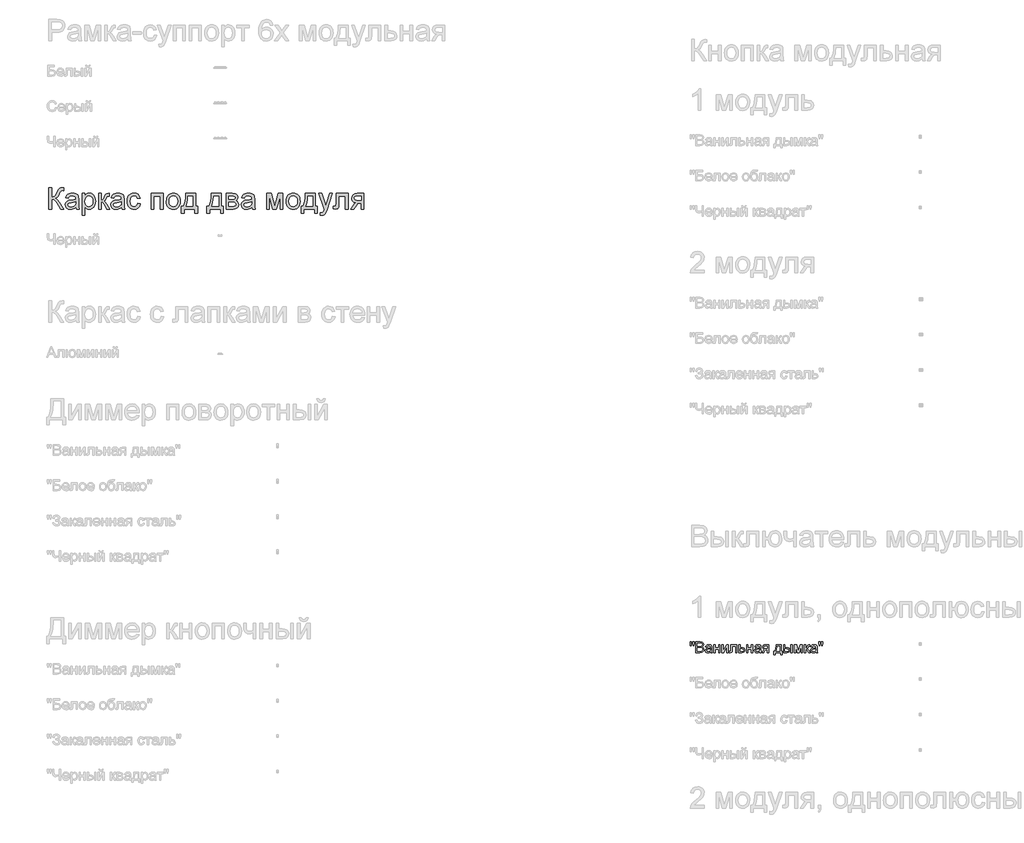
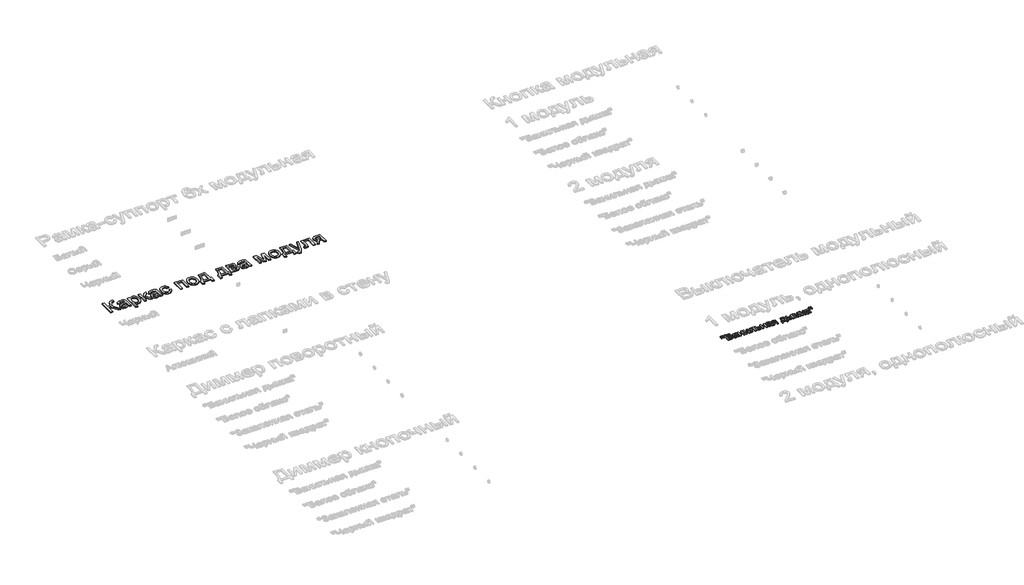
# One storey, part 37 of 168: 2 proxies.
"""IFC4 building model written with IfcOpenShell, lengths in millimetres."""

from ifc_helpers import new_model, si_unit, origin, origin_with_axes, place, context, project, spatial, polyline, outline, extrude, element, save

model = new_model("IFC4")

# Units and contexts
model_context = context("Model", 3, world=origin())
ifc_project = project(units=[si_unit("LENGTHUNIT", "METRE", prefix="MILLI")], contexts=[model_context])

# Site, building, storey
site = spatial("IfcSite", under=ifc_project)
building = spatial("IfcBuilding", under=site)
storey = spatial("IfcBuildingStorey", under=building, Name="Этаж 01", Elevation=0.0)

# Proxies
placement = place(None, origin())
element("IfcBuildingElementProxy", 1, Name="300 мм Arial 2", ObjectType="300 мм Arial 2", at=placement, inside=storey, context=model_context, shape_type="SweptSolid", body=[
    extrude(outline(polyline([(32899.0945017, -40581.2692868), (32936.765618, -40581.2692868), (32936.765618, -40713.1181939), (32962.2690373, -40710.6257934), (32978.8881064, -40703.1485918), (32992.3249963, -40685.5546354), (33008.2818778, -40652.7119703), (33029.0672106, -40610.5894818), (33039.0919949, -40599.1759429), (33052.6116582, -40589.7305727), (33068.6605103, -40583.3846083), (33086.2728608, -40581.2692868), (33110.9945309, -40581.7107452), (33110.9945309, -40619.3818615), (33102.6803978, -40619.1611323), (33094.3662647, -40618.9404031), (33077.1125991, -40621.2028774), (33064.9357051, -40627.9903002), (33054.4510682, -40642.2457275), (33042.5684798, -40666.7650625), (33027.9911557, -40697.2992681), (33015.8970351, -40714.0011107), (32989.8877781, -40729.5993073), (33004.4788977, -40735.807316), (33018.9688498, -40746.6322437), (33047.6452513, -40782.1328562), (33110.9945309, -40882.6382173), (33067.2901499, -40882.6382173), (33013.7265314, -40797.7310528), (32993.0423662, -40770.4985881), (32976.0186268, -40753.4012724), (32958.6086114, -40744.3789664), (32936.765618, -40741.3715311), (32936.765618, -40882.6382173), (32899.0945017, -40882.6382173), (32899.0945017, -40581.2692868)])), origin_with_axes(), (0.0, 0.0, 1.0), 20.0),
    extrude(outline(polyline([(33280.5145543, -40854.3848801), (33262.5159276, -40869.8175297), (33243.9838721, -40879.9158905), (33224.4953234, -40885.4893027), (33203.6272173, -40887.3471068), (33172.1457155, -40882.8773406), (33148.9231646, -40869.4680419), (33134.6033579, -40849.1057734), (33129.830089, -40823.7770981), (33131.6327108, -40808.1605074), (33137.0405761, -40793.9786564), (33145.3823004, -40781.8385506), (33155.9864989, -40772.3471951), (33182.3636379, -40759.9863601), (33214.9579827, -40754.3209774), (33253.4752276, -40748.361289), (33280.2938251, -40741.3715311), (33280.5145543, -40732.9838216), (33277.9209862, -40716.1716145), (33270.140282, -40705.1719428), (33252.7394636, -40697.0049625), (33228.4960401, -40694.2826358), (33206.0552384, -40696.0944546), (33190.3834654, -40701.5299111), (33179.6964935, -40711.5822866), (33172.2100949, -40727.2448625), (33134.5389786, -40722.535973), (33141.078081, -40701.9345812), (33150.836151, -40685.7477735), (33164.7236963, -40673.3685443), (33183.6512249, -40664.1898885), (33206.8001995, -40658.5061117), (33233.3520825, -40656.6115194), (33258.8187136, -40658.2853825), (33279.0062381, -40663.3069718), (33294.2273556, -40670.8577497), (33304.7947659, -40680.1191789), (33311.8029179, -40691.569506), (33316.3462606, -40705.6869776), (33318.1856706, -40738.6492044), (33318.1856706, -40785.5173706), (33320.0986569, -40850.9635775), (33327.6034496, -40882.6382173), (33289.9323333, -40882.6382173), (33280.5145543, -40854.3848801)]), holes=[polyline([(33280.5145543, -40779.0426474), (33219.7404487, -40790.5941421), (33187.3300449, -40796.7009832), (33172.6515533, -40806.6337971), (33167.5012053, -40821.1283477), (33170.3063056, -40832.3303544), (33178.7216062, -40841.5090102), (33192.5631663, -40847.6342454), (33211.6470448, -40849.6759905), (33231.8805545, -40847.4227133), (33249.7596195, -40840.6628816), (33264.2541701, -40830.7024766), (33274.3341367, -40818.8474793), (33278.803903, -40806.6337971), (33280.2938251, -40789.7112253), (33280.5145543, -40779.0426474)])]), origin_with_axes(), (0.0, 0.0, 1.0), 20.0),
    extrude(outline(polyline([(33369.9834555, -40967.398229), (33369.9834555, -40661.320409), (33407.6545718, -40661.320409), (33407.6545718, -40698.2557613), (33419.9418304, -40680.0364055), (33433.700617, -40667.0225799), (33449.740272, -40659.2142846), (33468.8701358, -40656.6115194), (33494.345964, -40660.2535512), (33516.6212188, -40671.1796465), (33534.7578011, -40688.7276176), (33547.817612, -40712.2352771), (33555.7086807, -40739.9919737), (33558.339037, -40770.287056), (33555.3683899, -40802.5043217), (33546.4564486, -40831.318679), (33531.8883216, -40855.2677968), (33511.9491174, -40872.8893444), (33488.7265665, -40883.7326662), (33464.308399, -40887.3471068), (33446.9903541, -40884.9282827), (33431.5301133, -40877.6718103), (33418.2955585, -40866.7181239), (33407.6545718, -40853.2076577), (33407.6545718, -40967.398229), (33369.9834555, -40967.398229)]), holes=[polyline([(33407.6545718, -40773.7451467), (33411.7288649, -40807.5167139), (33423.9517442, -40831.134738), (33441.987159, -40845.0406774), (33463.4990587, -40849.6759905), (33485.3604462, -40844.8751305), (33503.8557135, -40830.4725504), (33516.4648689, -40805.9900036), (33520.6679207, -40770.9492435), (33516.5660365, -40737.3616174), (33504.2603837, -40713.4124995), (33486.2525601, -40699.0651017), (33465.044163, -40694.2826358), (33443.7529926, -40699.3686043), (33425.0553902, -40714.6265101), (33412.0047764, -40739.5781064), (33407.6545718, -40773.7451467)])]), origin_with_axes(), (0.0, 0.0, 1.0), 20.0),
    extrude(outline(polyline([(33600.7190429, -40661.320409), (33638.3901592, -40661.320409), (33638.3901592, -40755.4981997), (33653.7124443, -40753.8059426), (33663.626864, -40748.729171), (33672.4008496, -40735.4854192), (33684.3018322, -40709.2922212), (33701.4819213, -40675.2631366), (33716.6386595, -40664.1898885), (33744.193021, -40661.320409), (33751.4035081, -40661.320409), (33751.4035081, -40699.2122545), (33741.249965, -40698.9915253), (33722.8558653, -40702.9646508), (33709.906419, -40727.7598973), (33694.7128926, -40754.5784948), (33673.4125251, -40767.711882), (33685.3502958, -40773.0139812), (33697.177702, -40782.3719795), (33720.5014205, -40813.255673), (33760.8212872, -40882.6382173), (33717.9998229, -40882.6382173), (33678.4892966, -40814.727201), (33658.6236689, -40785.9956171), (33649.3346485, -40780.7808899), (33638.3901592, -40779.0426474), (33638.3901592, -40882.6382173), (33600.7190429, -40882.6382173), (33600.7190429, -40661.320409)])), origin_with_axes(), (0.0, 0.0, 1.0), 20.0),
    extrude(outline(polyline([(33925.632421, -40854.3848801), (33907.6337944, -40869.8175297), (33889.1017389, -40879.9158905), (33869.6131902, -40885.4893027), (33848.745084, -40887.3471068), (33817.2635823, -40882.8773406), (33794.0410313, -40869.4680419), (33779.7212247, -40849.1057734), (33774.9479558, -40823.7770981), (33776.7505776, -40808.1605074), (33782.1584429, -40793.9786564), (33790.5001671, -40781.8385506), (33801.1043656, -40772.3471951), (33827.4815047, -40759.9863601), (33860.0758495, -40754.3209774), (33898.5930944, -40748.361289), (33925.4116918, -40741.3715311), (33925.632421, -40732.9838216), (33923.0388529, -40716.1716145), (33915.2581487, -40705.1719428), (33897.8573304, -40697.0049625), (33873.6139069, -40694.2826358), (33851.1731052, -40696.0944546), (33835.5013322, -40701.5299111), (33824.8143602, -40711.5822866), (33817.3279616, -40727.2448625), (33779.6568453, -40722.535973), (33786.1959478, -40701.9345812), (33795.9540177, -40685.7477735), (33809.841563, -40673.3685443), (33828.7690917, -40664.1898885), (33851.9180662, -40658.5061117), (33878.4699492, -40656.6115194), (33903.9365803, -40658.2853825), (33924.1241048, -40663.3069718), (33939.3452224, -40670.8577497), (33949.9126327, -40680.1191789), (33956.9207847, -40691.569506), (33961.4641273, -40705.6869776), (33963.3035373, -40738.6492044), (33963.3035373, -40785.5173706), (33965.2165237, -40850.9635775), (33972.7213164, -40882.6382173), (33935.0502001, -40882.6382173), (33925.632421, -40854.3848801)]), holes=[polyline([(33925.632421, -40779.0426474), (33864.8583154, -40790.5941421), (33832.4479116, -40796.7009832), (33817.76942, -40806.6337971), (33812.6190721, -40821.1283477), (33815.4241723, -40832.3303544), (33823.8394729, -40841.5090102), (33837.681033, -40847.6342454), (33856.7649115, -40849.6759905), (33876.9984212, -40847.4227133), (33894.8774862, -40840.6628816), (33909.3720368, -40830.7024766), (33919.4520035, -40818.8474793), (33923.9217697, -40806.6337971), (33925.4116918, -40789.7112253), (33925.632421, -40779.0426474)])]), origin_with_axes(), (0.0, 0.0, 1.0), 20.0),
    extrude(outline(polyline([(34156.3680084, -40802.5870951), (34194.0391247, -40807.2959847), (34183.5360937, -40840.8008374), (34163.7992247, -40866.1203157), (34136.6863216, -40882.040409), (34104.0551887, -40887.3471068), (34082.9272658, -40885.4962005), (34063.9836423, -40879.9434817), (34047.2243182, -40870.6889502), (34032.6492934, -40857.7326062), (34020.8517777, -40841.3181714), (34012.4249807, -40821.6893677), (34007.3689025, -40798.8461951), (34005.6835431, -40772.7886535), (34008.5622198, -40739.2654067), (34017.1982496, -40710.2119261), (34031.7295884, -40686.7502519), (34052.2941919, -40670.0024241), (34076.8963004, -40659.9592456), (34103.5401539, -40656.6115194), (34135.3711435, -40661.2100444), (34160.8193805, -40675.0056192), (34179.0755245, -40697.2624799), (34189.3302351, -40727.2448625), (34151.6591188, -40731.9537521), (34144.8257108, -40715.5186239), (34134.1847241, -40703.737203), (34120.3247699, -40696.6462776), (34103.8344595, -40694.2826358), (34079.4898684, -40698.936343), (34060.1668666, -40712.8974647), (34047.5577113, -40736.920159), (34043.3546595, -40771.7585839), (34047.4657408, -40807.0660584), (34059.7989846, -40831.1715262), (34078.7724985, -40845.0498744), (34102.8043899, -40849.6759905), (34122.3113327, -40846.7881169), (34138.3050024, -40838.1244959), (34149.9392705, -40823.4643984), (34156.3680084, -40802.5870951)])), origin_with_axes(), (0.0, 0.0, 1.0), 20.0),
    extrude(outline(polyline([(34344.7235899, -40661.320409), (34514.2436133, -40661.320409), (34514.2436133, -40882.6382173), (34476.572497, -40882.6382173), (34476.572497, -40698.9915253), (34382.3947062, -40698.9915253), (34382.3947062, -40882.6382173), (34344.7235899, -40882.6382173), (34344.7235899, -40661.320409)])), origin_with_axes(), (0.0, 0.0, 1.0), 20.0),
    extrude(outline(polyline([(34561.3325087, -40771.9793131), (34563.3696552, -40743.3167072), (34569.4810949, -40718.6180297), (34579.6668276, -40697.8832808), (34593.9268534, -40681.1124603), (34608.2834483, -40670.3932987), (34624.1299652, -40662.7367547), (34641.4664043, -40658.1428282), (34660.2927654, -40656.6115194), (34681.0757988, -40658.4762213), (34699.867671, -40664.0703269), (34716.6683819, -40673.3938362), (34731.4779314, -40686.4467493), (34743.5651542, -40702.7876076), (34752.1988848, -40721.9749529), (34757.3791232, -40744.0087852), (34759.1058693, -40768.8891044), (34756.0524487, -40806.9464968), (34746.892187, -40835.9172039), (34731.8917987, -40857.6130446), (34711.3179981, -40873.8458376), (34686.8814366, -40883.9717895), (34660.2927654, -40887.3471068), (34639.2062293, -40885.4893027), (34620.2396131, -40879.9158905), (34603.392917, -40870.6268701), (34588.6661409, -40857.6222416), (34576.7076768, -40841.1227341), (34568.1659167, -40821.3490769), (34563.0408607, -40798.3012699), (34561.3325087, -40771.9793131)]), holes=[polyline([(34599.003625, -40771.9057367), (34603.3630266, -40805.9992006), (34616.4412315, -40830.2886094), (34636.1229183, -40844.8291452), (34660.2927654, -40849.6759905), (34684.3522479, -40844.8015541), (34703.9971464, -40830.1782448), (34717.0753513, -40805.5669393), (34721.434753, -40770.7285143), (34717.0477602, -40737.6283318), (34703.8867818, -40713.6700169), (34684.2142921, -40699.129481), (34660.2927654, -40694.2826358), (34636.1229183, -40699.1110869), (34616.4412315, -40713.5964405), (34603.3630266, -40737.8306669), (34599.003625, -40771.9057367)])]), origin_with_axes(), (0.0, 0.0, 1.0), 20.0),
    extrude(outline(polyline([(34834.4481019, -40661.320409), (34975.714788, -40661.320409), (34975.714788, -40844.967101), (35003.9681253, -40844.967101), (35003.9681253, -40943.8537813), (34966.297009, -40943.8537813), (34966.297009, -40882.6382173), (34810.9036542, -40882.6382173), (34810.9036542, -40943.8537813), (34773.2325379, -40943.8537813), (34773.2325379, -40844.967101), (34796.7769856, -40844.967101), (34813.8926954, -40814.0374222), (34825.8764514, -40773.1197473), (34832.7282536, -40722.2140762), (34834.4481019, -40661.320409)]), holes=[polyline([(34867.4103287, -40698.9915253), (34864.3201199, -40745.1147304), (34858.5811608, -40784.8183948), (34850.1934513, -40818.1025183), (34839.1569914, -40844.967101), (34938.0436717, -40844.967101), (34938.0436717, -40698.9915253), (34867.4103287, -40698.9915253)])]), origin_with_axes(), (0.0, 0.0, 1.0), 20.0),
    extrude(outline(polyline([(35197.0325963, -40661.320409), (35338.2992825, -40661.320409), (35338.2992825, -40844.967101), (35366.5526197, -40844.967101), (35366.5526197, -40943.8537813), (35328.8815034, -40943.8537813), (35328.8815034, -40882.6382173), (35173.4881486, -40882.6382173), (35173.4881486, -40943.8537813), (35135.8170323, -40943.8537813), (35135.8170323, -40844.967101), (35159.36148, -40844.967101), (35176.4771898, -40814.0374222), (35188.4609458, -40773.1197473), (35195.312748, -40722.2140762), (35197.0325963, -40661.320409)]), holes=[polyline([(35229.9948231, -40698.9915253), (35226.9046143, -40745.1147304), (35221.1656552, -40784.8183948), (35212.7779457, -40818.1025183), (35201.7414859, -40844.967101), (35300.6281662, -40844.967101), (35300.6281662, -40698.9915253), (35229.9948231, -40698.9915253)])]), origin_with_axes(), (0.0, 0.0, 1.0), 20.0),
    extrude(outline(polyline([(35408.9326256, -40661.320409), (35491.9268037, -40661.320409), (35518.6074454, -40662.5804048), (35537.4338065, -40666.3603923), (35551.2845636, -40673.497303), (35563.0383933, -40684.8280685), (35571.0674179, -40699.5893335), (35573.7437594, -40717.0177431), (35572.1250786, -40731.0616382), (35567.2690363, -40743.1741529), (35559.1572383, -40753.4104694), (35547.7712905, -40761.8257701), (35561.7140181, -40769.6524595), (35573.0815718, -40782.2432208), (35580.6415468, -40798.6047725), (35583.1615385, -40817.7438333), (35576.7787859, -40846.4570231), (35561.6036536, -40866.6721387), (35537.5809593, -40878.6466976), (35504.6555207, -40882.6382173), (35408.9326256, -40882.6382173), (35408.9326256, -40661.320409)]), holes=[polyline([(35446.6037419, -40746.0804207), (35483.8333998, -40746.0804207), (35514.5515464, -40744.1674343), (35529.4875554, -40736.5154888), (35534.4263712, -40730.1879185), (35536.0726431, -40722.6831258), (35533.1847694, -40711.4443308), (35524.5211484, -40704.2154496), (35508.8677695, -40700.2975064), (35485.0106222, -40698.9915253), (35446.6037419, -40698.9915253), (35446.6037419, -40746.0804207)]), polyline([(35446.6037419, -40844.967101), (35492.8097205, -40844.967101), (35517.991243, -40843.2656467), (35533.7917747, -40838.1612841), (35542.2714547, -40828.8814607), (35545.4904222, -40814.6536246), (35543.8809384, -40805.2266484), (35539.0524872, -40796.5170422), (35531.639665, -40789.7020282), (35522.2770683, -40785.9588289), (35489.1309005, -40783.751537), (35446.6037419, -40783.751537), (35446.6037419, -40844.967101)])]), origin_with_axes(), (0.0, 0.0, 1.0), 20.0),
    extrude(outline(polyline([(35771.51712, -40854.3848801), (35753.5184934, -40869.8175297), (35734.9864379, -40879.9158905), (35715.4978892, -40885.4893027), (35694.629783, -40887.3471068), (35663.1482813, -40882.8773406), (35639.9257303, -40869.4680419), (35625.6059237, -40849.1057734), (35620.8326548, -40823.7770981), (35622.6352766, -40808.1605074), (35628.0431419, -40793.9786564), (35636.3848661, -40781.8385506), (35646.9890646, -40772.3471951), (35673.3662037, -40759.9863601), (35705.9605485, -40754.3209774), (35744.4777934, -40748.361289), (35771.2963908, -40741.3715311), (35771.51712, -40732.9838216), (35768.9235519, -40716.1716145), (35761.1428477, -40705.1719428), (35743.7420294, -40697.0049625), (35719.4986059, -40694.2826358), (35697.0578042, -40696.0944546), (35681.3860312, -40701.5299111), (35670.6990592, -40711.5822866), (35663.2126606, -40727.2448625), (35625.5415443, -40722.535973), (35632.0806468, -40701.9345812), (35641.8387167, -40685.7477735), (35655.726262, -40673.3685443), (35674.6537907, -40664.1898885), (35697.8027652, -40658.5061117), (35724.3546482, -40656.6115194), (35749.8212793, -40658.2853825), (35770.0088038, -40663.3069718), (35785.2299214, -40670.8577497), (35795.7973317, -40680.1191789), (35802.8054837, -40691.569506), (35807.3488263, -40705.6869776), (35809.1882363, -40738.6492044), (35809.1882363, -40785.5173706), (35811.1012227, -40850.9635775), (35818.6060154, -40882.6382173), (35780.9348991, -40882.6382173), (35771.51712, -40854.3848801)]), holes=[polyline([(35771.51712, -40779.0426474), (35710.7430144, -40790.5941421), (35678.3326106, -40796.7009832), (35663.654119, -40806.6337971), (35658.5037711, -40821.1283477), (35661.3088713, -40832.3303544), (35669.7241719, -40841.5090102), (35683.565732, -40847.6342454), (35702.6496105, -40849.6759905), (35722.8831202, -40847.4227133), (35740.7621852, -40840.6628816), (35755.2567358, -40830.7024766), (35765.3367025, -40818.8474793), (35769.8064687, -40806.6337971), (35771.2963908, -40789.7112253), (35771.51712, -40779.0426474)])]), origin_with_axes(), (0.0, 0.0, 1.0), 20.0),
    extrude(outline(polyline([(35978.7082597, -40661.320409), (36043.5290672, -40661.320409), (36093.4874422, -40838.4923779), (36147.3453663, -40661.320409), (36209.4438471, -40661.320409), (36209.4438471, -40882.6382173), (36171.7727308, -40882.6382173), (36171.7727308, -40704.4361788), (36117.6205011, -40882.6382173), (36068.1771609, -40882.6382173), (36016.379376, -40695.9013165), (36016.379376, -40882.6382173), (35978.7082597, -40882.6382173), (35978.7082597, -40661.320409)])), origin_with_axes(), (0.0, 0.0, 1.0), 20.0),
    extrude(outline(polyline([(36256.5327424, -40771.9793131), (36258.569889, -40743.3167072), (36264.6813286, -40718.6180297), (36274.8670614, -40697.8832808), (36289.1270872, -40681.1124603), (36303.4836821, -40670.3932987), (36319.330199, -40662.7367547), (36336.666638, -40658.1428282), (36355.4929991, -40656.6115194), (36376.2760326, -40658.4762213), (36395.0679048, -40664.0703269), (36411.8686156, -40673.3938362), (36426.6781652, -40686.4467493), (36438.765388, -40702.7876076), (36447.3991186, -40721.9749529), (36452.5793569, -40744.0087852), (36454.306103, -40768.8891044), (36451.2526825, -40806.9464968), (36442.0924208, -40835.9172039), (36427.0920325, -40857.6130446), (36406.5182319, -40873.8458376), (36382.0816703, -40883.9717895), (36355.4929991, -40887.3471068), (36334.406463, -40885.4893027), (36315.4398469, -40879.9158905), (36298.5931508, -40870.6268701), (36283.8663747, -40857.6222416), (36271.9079106, -40841.1227341), (36263.3661505, -40821.3490769), (36258.2410945, -40798.3012699), (36256.5327424, -40771.9793131)]), holes=[polyline([(36294.2038587, -40771.9057367), (36298.5632604, -40805.9992006), (36311.6414653, -40830.2886094), (36331.3231521, -40844.8291452), (36355.4929991, -40849.6759905), (36379.5524816, -40844.8015541), (36399.1973802, -40830.1782448), (36412.2755851, -40805.5669393), (36416.6349867, -40770.7285143), (36412.2479939, -40737.6283318), (36399.0870156, -40713.6700169), (36379.4145259, -40699.129481), (36355.4929991, -40694.2826358), (36331.3231521, -40699.1110869), (36311.6414653, -40713.5964405), (36298.5632604, -40737.8306669), (36294.2038587, -40771.9057367)])]), origin_with_axes(), (0.0, 0.0, 1.0), 20.0),
    extrude(outline(polyline([(36529.6483357, -40661.320409), (36670.9150218, -40661.320409), (36670.9150218, -40844.967101), (36699.168359, -40844.967101), (36699.168359, -40943.8537813), (36661.4972427, -40943.8537813), (36661.4972427, -40882.6382173), (36506.103888, -40882.6382173), (36506.103888, -40943.8537813), (36468.4327717, -40943.8537813), (36468.4327717, -40844.967101), (36491.9772194, -40844.967101), (36509.0929292, -40814.0374222), (36521.0766852, -40773.1197473), (36527.9284873, -40722.2140762), (36529.6483357, -40661.320409)]), holes=[polyline([(36562.6105624, -40698.9915253), (36559.5203537, -40745.1147304), (36553.7813945, -40784.8183948), (36545.3936851, -40818.1025183), (36534.3572252, -40844.967101), (36633.2439055, -40844.967101), (36633.2439055, -40698.9915253), (36562.6105624, -40698.9915253)])]), origin_with_axes(), (0.0, 0.0, 1.0), 20.0),
    extrude(outline(polyline([(36741.5483649, -40967.398229), (36736.8394753, -40931.1250642), (36755.9693391, -40934.4360022), (36773.8484041, -40930.2789357), (36784.8112875, -40918.6906528), (36795.1119834, -40890.9523504), (36798.0550393, -40881.8288769), (36718.0039172, -40661.320409), (36757.7351727, -40661.320409), (36800.1887549, -40784.1929954), (36814.9776111, -40833.3420299), (36829.7664673, -40789.9319545), (36873.397272, -40661.320409), (36912.8342218, -40661.320409), (36835.799732, -40887.935718), (36815.7869515, -40937.0847526), (36805.5414379, -40952.7749197), (36793.934761, -40963.6458326), (36780.4518859, -40969.991797), (36764.5777778, -40972.1071185), (36741.5483649, -40967.398229)])), origin_with_axes(), (0.0, 0.0, 1.0), 20.0),
    extrude(outline(polyline([(36962.8661732, -40661.320409), (37132.3861966, -40661.320409), (37132.3861966, -40882.4174881), (37094.7150803, -40882.4174881), (37094.7150803, -40698.9915253), (37000.5372895, -40698.9915253), (37000.5372895, -40804.5736579), (36997.9989037, -40853.2812341), (36993.2440289, -40864.3084969), (36984.0561761, -40873.8458376), (36970.1134485, -40880.4401224), (36951.0939493, -40882.6382173), (36920.4861673, -40880.7252309), (36920.4861673, -40844.967101), (36937.3351627, -40844.967101), (36954.3680991, -40842.6494444), (36961.173916, -40835.2918045), (36962.8661732, -40802.4399423), (36962.8661732, -40661.320409)])), origin_with_axes(), (0.0, 0.0, 1.0), 20.0),
    extrude(outline(polyline([(37358.4128944, -40661.320409), (37358.4128944, -40882.6382173), (37320.7417781, -40882.6382173), (37320.7417781, -40797.8782056), (37300.2139628, -40797.8782056), (37272.2549311, -40802.6606715), (37261.0897126, -40813.0901261), (37245.9881567, -40834.8135579), (37215.9689859, -40882.6382173), (37172.4117576, -40882.6382173), (37210.2300267, -40822.1584173), (37226.9318693, -40800.4533796), (37242.3093367, -40790.8148713), (37216.5575971, -40782.9238025), (37198.4578029, -40767.9326112), (37187.7524368, -40747.993407), (37184.1839815, -40725.2582997), (37189.0584179, -40699.4697719), (37203.6817272, -40679.0523211), (37227.5388746, -40665.753387), (37260.1148253, -40661.320409), (37358.4128944, -40661.320409)]), holes=[polyline([(37320.7417781, -40698.9915253), (37271.0777087, -40698.9915253), (37245.4271366, -40701.1712261), (37230.8682067, -40707.7103286), (37224.108375, -40717.1740929), (37221.8550978, -40728.1277793), (37225.1752328, -40742.4843742), (37235.1356378, -40752.4447792), (37253.5389346, -40758.2665118), (37282.187745, -40760.2070893), (37320.7417781, -40760.2070893), (37320.7417781, -40698.9915253)])]), origin_with_axes(), (0.0, 0.0, 1.0), 20.0),
])
element("IfcBuildingElementProxy", 2, Name="150", ObjectType="150", at=placement, inside=storey, context=model_context, shape_type="SweptSolid", body=[
    extrude(outline(polyline([(41980.1485789, -47064.0640488), (41975.550054, -47034.9645829), (41975.550054, -47009.9118191), (41994.3856121, -47009.9118191), (41994.3856121, -47034.9645829), (41990.2653338, -47064.0640488), (41980.1485789, -47064.0640488)])), origin_with_axes(), (0.0, 0.0, 1.0), 20.0),
    extrude(outline(polyline([(42017.7093306, -47064.0640488), (42013.2211703, -47034.9645829), (42013.2211703, -47009.9118191), (42032.0567284, -47009.9118191), (42032.0567284, -47034.9645829), (42027.6421445, -47064.0640488), (42017.7093306, -47064.0640488)])), origin_with_axes(), (0.0, 0.0, 1.0), 20.0),
    extrude(outline(polyline([(42057.9556209, -47160.5962843), (42057.9556209, -47009.9118191), (42115.4555767, -47009.9118191), (42143.6169435, -47014.3447971), (42153.0807078, -47019.9687931), (42160.2452096, -47027.974825), (42166.2600803, -47047.2518416), (42161.2017028, -47064.8549951), (42145.9162059, -47078.1907174), (42156.5893823, -47083.7641296), (42164.4758526, -47092.2438096), (42169.3456905, -47103.0687373), (42170.9689698, -47115.6778927), (42166.5359918, -47135.9297965), (42155.5547142, -47150.3507707), (42139.1655713, -47158.0027162), (42115.0141183, -47160.5962843), (42057.9556209, -47160.5962843)]), holes=[polyline([(42076.791179, -47071.1273831), (42111.1881456, -47071.1273831), (42131.2745025, -47069.5087023), (42143.3594261, -47062.5373385), (42147.4245221, -47050.2684739), (42143.6353376, -47037.9812153), (42132.7828187, -47030.7155459), (42108.5761834, -47028.7473772), (42076.791179, -47028.7473772), (42076.791179, -47071.1273831)]), polyline([(42076.791179, -47141.7607261), (42115.4187885, -47141.7607261), (42129.3983043, -47141.0249622), (42141.2257105, -47136.9230779), (42149.061597, -47128.5537625), (42152.1334117, -47115.8618337), (42148.5281681, -47101.2201303), (42136.8479148, -47092.4829329), (42113.5793786, -47089.9629412), (42076.791179, -47089.9629412), (42076.791179, -47141.7607261)])]), origin_with_axes(), (0.0, 0.0, 1.0), 20.0),
    extrude(outline(polyline([(42265.1467606, -47146.4696157), (42246.8814195, -47159.2351209), (42226.7030921, -47162.9507291), (42210.9623412, -47160.7158459), (42199.3510657, -47154.0111966), (42192.1911624, -47143.8300624), (42189.804528, -47131.1657247), (42193.4097715, -47116.2665039), (42202.8827329, -47105.4507732), (42216.0713024, -47099.2703557), (42232.3684748, -47096.4376643), (42265.036396, -47089.9629412), (42265.1467606, -47085.7690865), (42263.8499765, -47077.3629829), (42259.9596244, -47071.8631471), (42251.2592153, -47067.7796569), (42239.1375035, -47066.4184935), (42220.0812162, -47070.0421312), (42210.9945309, -47082.8996069), (42192.1589727, -47080.5451621), (42200.3075589, -47062.1510624), (42216.7150959, -47051.3721199), (42241.5655247, -47047.5829354), (42264.3926025, -47050.9306615), (42277.2868664, -47059.3367651), (42283.0626137, -47072.1206645), (42283.9823187, -47088.6017778), (42283.9823187, -47112.0358609), (42284.9388119, -47144.7589644), (42288.6912083, -47160.5962843), (42269.8556501, -47160.5962843), (42265.1467606, -47146.4696157)]), holes=[polyline([(42265.1467606, -47108.7984994), (42234.7597078, -47114.5742467), (42218.5545059, -47117.6276673), (42211.2152601, -47122.5940742), (42208.6400861, -47129.8413495), (42214.2502865, -47140.0316808), (42230.7130058, -47144.1151709), (42249.7692932, -47139.6086165), (42262.0565518, -47128.7009153), (42265.036396, -47114.1327883), (42265.1467606, -47108.7984994)])]), origin_with_axes(), (0.0, 0.0, 1.0), 20.0),
    extrude(outline(polyline([(42309.8812112, -47049.9373802), (42328.7167693, -47049.9373802), (42328.7167693, -47092.317386), (42378.1601095, -47092.317386), (42378.1601095, -47049.9373802), (42396.9956676, -47049.9373802), (42396.9956676, -47160.5962843), (42378.1601095, -47160.5962843), (42378.1601095, -47111.1529441), (42328.7167693, -47111.1529441), (42328.7167693, -47160.5962843), (42309.8812112, -47160.5962843), (42309.8812112, -47049.9373802)])), origin_with_axes(), (0.0, 0.0, 1.0), 20.0),
    extrude(outline(polyline([(42425.2490049, -47049.9373802), (42444.084563, -47049.9373802), (42444.084563, -47134.3295098), (42490.364118, -47049.9373802), (42514.7179061, -47049.9373802), (42514.7179061, -47160.5962843), (42495.8823479, -47160.5962843), (42495.8823479, -47076.7191894), (42449.8970985, -47160.5962843), (42425.2490049, -47160.5962843), (42425.2490049, -47049.9373802)])), origin_with_axes(), (0.0, 0.0, 1.0), 20.0),
    extrude(outline(polyline([(42552.3890224, -47049.9373802), (42637.1490341, -47049.9373802), (42637.1490341, -47160.4859197), (42618.3134759, -47160.4859197), (42618.3134759, -47068.7729383), (42571.2245806, -47068.7729383), (42571.2245806, -47121.5640046), (42569.9553877, -47145.9177927), (42562.9840239, -47156.2000945), (42546.5029105, -47160.5962843), (42531.1990195, -47159.6397911), (42531.1990195, -47141.7607261), (42539.6235172, -47141.7607261), (42548.1399854, -47140.6018979), (42551.5428938, -47136.9230779), (42552.3890224, -47120.4971468), (42552.3890224, -47049.9373802)])), origin_with_axes(), (0.0, 0.0, 1.0), 20.0),
    extrude(outline(polyline([(42665.4023713, -47049.9373802), (42684.2379295, -47049.9373802), (42684.2379295, -47089.9629412), (42705.9429672, -47089.9629412), (42724.7601312, -47092.3219845), (42738.6844648, -47099.3991144), (42747.2929034, -47110.6241138), (42750.162383, -47125.4267656), (42747.7205663, -47138.9050422), (42740.395116, -47150.2771943), (42727.6985887, -47158.0165118), (42709.1435405, -47160.5962843), (42665.4023713, -47160.5962843), (42665.4023713, -47049.9373802)]), holes=[polyline([(42684.2379295, -47141.7607261), (42701.8226888, -47141.7607261), (42724.539402, -47137.8059947), (42729.6299692, -47132.7430187), (42731.3268249, -47125.4635538), (42726.3052356, -47113.8752709), (42718.2348244, -47110.0676923), (42704.066769, -47108.7984994), (42684.2379295, -47108.7984994), (42684.2379295, -47141.7607261)])]), origin_with_axes(), (0.0, 0.0, 1.0), 20.0),
    extrude(outline(polyline([(42773.7068307, -47049.9373802), (42792.5423889, -47049.9373802), (42792.5423889, -47092.317386), (42841.985729, -47092.317386), (42841.985729, -47049.9373802), (42860.8212872, -47049.9373802), (42860.8212872, -47160.5962843), (42841.985729, -47160.5962843), (42841.985729, -47111.1529441), (42792.5423889, -47111.1529441), (42792.5423889, -47160.5962843), (42773.7068307, -47160.5962843), (42773.7068307, -47049.9373802)])), origin_with_axes(), (0.0, 0.0, 1.0), 20.0),
    extrude(outline(polyline([(42959.7079675, -47146.4696157), (42941.4426264, -47159.2351209), (42921.264299, -47162.9507291), (42905.5235481, -47160.7158459), (42893.9122726, -47154.0111966), (42886.7523693, -47143.8300624), (42884.3657349, -47131.1657247), (42887.9709784, -47116.2665039), (42897.4439398, -47105.4507732), (42910.6325093, -47099.2703557), (42926.9296817, -47096.4376643), (42959.5976029, -47089.9629412), (42959.7079675, -47085.7690865), (42958.4111834, -47077.3629829), (42954.5208313, -47071.8631471), (42945.8204221, -47067.7796569), (42933.6987104, -47066.4184935), (42914.6424231, -47070.0421312), (42905.5557378, -47082.8996069), (42886.7201796, -47080.5451621), (42894.8687658, -47062.1510624), (42911.2763028, -47051.3721199), (42936.1267316, -47047.5829354), (42958.9538094, -47050.9306615), (42971.8480733, -47059.3367651), (42977.6238206, -47072.1206645), (42978.5435256, -47088.6017778), (42978.5435256, -47112.0358609), (42979.5000188, -47144.7589644), (42983.2524152, -47160.5962843), (42964.416857, -47160.5962843), (42959.7079675, -47146.4696157)]), holes=[polyline([(42959.7079675, -47108.7984994), (42929.3209147, -47114.5742467), (42913.1157128, -47117.6276673), (42905.776467, -47122.5940742), (42903.201293, -47129.8413495), (42908.8114934, -47140.0316808), (42925.2742127, -47144.1151709), (42944.3305001, -47139.6086165), (42956.6177587, -47128.7009153), (42959.5976029, -47114.1327883), (42959.7079675, -47108.7984994)])]), origin_with_axes(), (0.0, 0.0, 1.0), 20.0),
    extrude(outline(polyline([(43089.2024298, -47049.9373802), (43089.2024298, -47160.5962843), (43070.3668716, -47160.5962843), (43070.3668716, -47118.2162785), (43060.1029639, -47118.2162785), (43046.1234481, -47120.6075114), (43032.9900609, -47136.6839546), (43017.9804755, -47160.5962843), (42996.2018614, -47160.5962843), (43015.1109959, -47130.3563843), (43023.4619172, -47119.5038654), (43031.1506509, -47114.6846113), (43018.2747811, -47110.7390769), (43009.224884, -47103.2434813), (43003.872201, -47093.2738792), (43002.0879733, -47081.9063255), (43004.5251915, -47069.0120616), (43011.8368462, -47058.8033362), (43023.7654199, -47052.1538692), (43040.0533952, -47049.9373802), (43089.2024298, -47049.9373802)]), holes=[polyline([(43070.3668716, -47068.7729383), (43045.5348369, -47068.7729383), (43032.7095509, -47069.8627887), (43025.4300859, -47073.1323399), (43020.9235315, -47083.3410653), (43022.583599, -47090.5193627), (43027.5638015, -47095.4995653), (43051.0898551, -47099.3807203), (43070.3668716, -47099.3807203), (43070.3668716, -47068.7729383)])]), origin_with_axes(), (0.0, 0.0, 1.0), 20.0),
    extrude(outline(polyline([(43192.7979996, -47049.9373802), (43263.4313427, -47049.9373802), (43263.4313427, -47141.7607261), (43277.5580113, -47141.7607261), (43277.5580113, -47191.2040663), (43258.7224531, -47191.2040663), (43258.7224531, -47160.5962843), (43181.0257758, -47160.5962843), (43181.0257758, -47191.2040663), (43162.1902176, -47191.2040663), (43162.1902176, -47141.7607261), (43173.9624415, -47141.7607261), (43182.5202964, -47126.2958868), (43188.5121744, -47105.8370493), (43192.7979996, -47049.9373802)]), holes=[polyline([(43209.279113, -47068.7729383), (43204.864529, -47111.686373), (43195.1524444, -47141.7607261), (43244.5957845, -47141.7607261), (43244.5957845, -47068.7729383), (43209.279113, -47068.7729383)])]), origin_with_axes(), (0.0, 0.0, 1.0), 20.0),
    extrude(outline(polyline([(43402.3435841, -47049.9373802), (43421.1791422, -47049.9373802), (43421.1791422, -47160.5962843), (43402.3435841, -47160.5962843), (43402.3435841, -47049.9373802)])), origin_with_axes(), (0.0, 0.0, 1.0), 20.0),
    extrude(outline(polyline([(43298.7480142, -47049.9373802), (43317.5835724, -47049.9373802), (43317.5835724, -47089.9629412), (43340.8705027, -47089.9629412), (43360.9982463, -47092.3219845), (43375.9112627, -47099.3991144), (43385.1405023, -47110.6241138), (43388.2169154, -47125.4267656), (43385.637143, -47138.9050422), (43377.8978255, -47150.2771943), (43364.4931253, -47158.0165118), (43344.9172046, -47160.5962843), (43298.7480142, -47160.5962843), (43298.7480142, -47049.9373802)]), holes=[polyline([(43317.5835724, -47141.7607261), (43336.9341653, -47141.7607261), (43361.9133528, -47137.8059947), (43367.5143562, -47132.7430187), (43369.3813573, -47125.4635538), (43363.8447333, -47113.8752709), (43354.9649816, -47110.0676923), (43339.3989747, -47108.7984994), (43317.5835724, -47108.7984994), (43317.5835724, -47141.7607261)])]), origin_with_axes(), (0.0, 0.0, 1.0), 20.0),
    extrude(outline(polyline([(43449.4324794, -47049.9373802), (43481.8428832, -47049.9373802), (43506.8220707, -47138.5233646), (43533.7510327, -47049.9373802), (43564.8002731, -47049.9373802), (43564.8002731, -47160.5962843), (43545.964715, -47160.5962843), (43545.964715, -47071.4952651), (43518.8886001, -47160.5962843), (43494.1669301, -47160.5962843), (43468.2680376, -47067.2278339), (43468.2680376, -47160.5962843), (43449.4324794, -47160.5962843), (43449.4324794, -47049.9373802)])), origin_with_axes(), (0.0, 0.0, 1.0), 20.0),
    extrude(outline(polyline([(43593.0536104, -47049.9373802), (43611.8891685, -47049.9373802), (43611.8891685, -47097.0262755), (43624.5075209, -47093.6417612), (43634.845005, -47073.9232862), (43643.4350496, -47056.908744), (43651.0134187, -47051.3721199), (43664.7905994, -47049.9373802), (43668.395843, -47049.9373802), (43668.395843, -47068.8833029), (43663.3190714, -47068.7729383), (43654.1220216, -47070.7595011), (43647.6472984, -47083.1571243), (43640.0505352, -47096.566423), (43629.4003515, -47103.1331167), (43641.2829399, -47110.4631654), (43652.9447992, -47125.9050122), (43673.1047325, -47160.5962843), (43651.6940004, -47160.5962843), (43631.9387372, -47126.6407761), (43622.0059234, -47112.2749842), (43611.8891685, -47108.7984994), (43611.8891685, -47160.5962843), (43593.0536104, -47160.5962843), (43593.0536104, -47049.9373802)])), origin_with_axes(), (0.0, 0.0, 1.0), 20.0),
    extrude(outline(polyline([(43755.5102994, -47146.4696157), (43737.2449584, -47159.2351209), (43717.0666309, -47162.9507291), (43701.3258801, -47160.7158459), (43689.7146046, -47154.0111966), (43682.5547013, -47143.8300624), (43680.1680668, -47131.1657247), (43683.7733104, -47116.2665039), (43693.2462717, -47105.4507732), (43706.4348413, -47099.2703557), (43722.7320137, -47096.4376643), (43755.3999348, -47089.9629412), (43755.5102994, -47085.7690865), (43754.2135154, -47077.3629829), (43750.3231633, -47071.8631471), (43741.6227541, -47067.7796569), (43729.5010424, -47066.4184935), (43710.444755, -47070.0421312), (43701.3580697, -47082.8996069), (43682.5225116, -47080.5451621), (43690.6710978, -47062.1510624), (43707.0786348, -47051.3721199), (43731.9290635, -47047.5829354), (43754.7561413, -47050.9306615), (43767.6504053, -47059.3367651), (43773.4261526, -47072.1206645), (43774.3458576, -47088.6017778), (43774.3458576, -47112.0358609), (43775.3023508, -47144.7589644), (43779.0547471, -47160.5962843), (43760.219189, -47160.5962843), (43755.5102994, -47146.4696157)]), holes=[polyline([(43755.5102994, -47108.7984994), (43725.1232466, -47114.5742467), (43708.9180447, -47117.6276673), (43701.5787989, -47122.5940742), (43699.003625, -47129.8413495), (43704.6138254, -47140.0316808), (43721.0765447, -47144.1151709), (43740.132832, -47139.6086165), (43752.4200907, -47128.7009153), (43755.3999348, -47114.1327883), (43755.5102994, -47108.7984994)])]), origin_with_axes(), (0.0, 0.0, 1.0), 20.0),
    extrude(outline(polyline([(43800.1343854, -47064.0640488), (43795.5358605, -47034.9645829), (43795.5358605, -47009.9118191), (43814.3714187, -47009.9118191), (43814.3714187, -47034.9645829), (43810.2511403, -47064.0640488), (43800.1343854, -47064.0640488)])), origin_with_axes(), (0.0, 0.0, 1.0), 20.0),
    extrude(outline(polyline([(43837.6951372, -47064.0640488), (43833.2069768, -47034.9645829), (43833.2069768, -47009.9118191), (43852.042535, -47009.9118191), (43852.042535, -47034.9645829), (43847.627951, -47064.0640488), (43837.6951372, -47064.0640488)])), origin_with_axes(), (0.0, 0.0, 1.0), 20.0),
])

save(model, "model.ifc")
